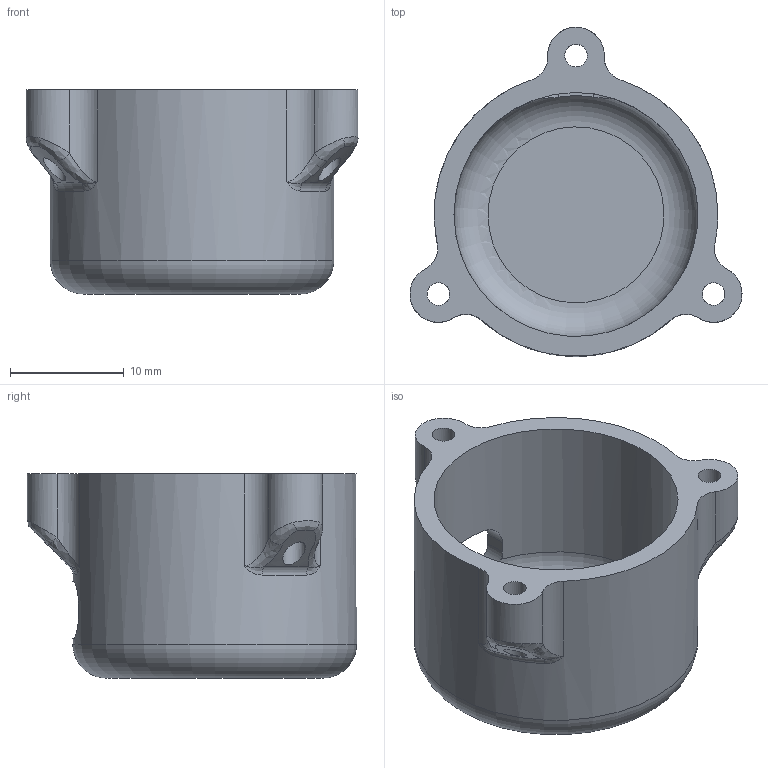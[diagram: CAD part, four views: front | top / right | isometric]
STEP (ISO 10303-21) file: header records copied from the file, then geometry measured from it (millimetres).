
FILE_DESCRIPTION(/* description */ ('Alibre Inc.'),/* implementation_level */ '2;1');
FILE_NAME(/* name */ 'export-B4A6B7F3-2F3C-40A6-8990-0A2E9B29EFCC',/* time_stamp */ '2020-08-19T17:22:30-05:00',/* author */ (''),/* organization */ (''),/* preprocessor_version */ 'ST-DEVELOPER v17',/* originating_system */ 'Alibre',/* authorisation */ '');
FILE_SCHEMA (('AUTOMOTIVE_DESIGN'));
Length unit declared in the file: millimetre
Bounding box: 29.25 x 29 x 18 mm (x, y, z)
Volume: 3167.1 mm3; surface area: 3560.9 mm2
Topology: 1 solids, 2 shells, 58 faces, 151 edges, 91 vertices
Faces by surface type: bspline 21, cylinder 20, plane 9, torus 5, cone 3
Full cylindrical faces by diameter (mm): 0.355 x1, 2 x3, 21.5 x1, 25 x1
Entity records: 4882 total; most frequent: CARTESIAN_POINT 3705, ORIENTED_EDGE 258, DIRECTION 184, EDGE_CURVE 129, AXIS2_PLACEMENT_3D 87, VERTEX_POINT 84, EDGE_LOOP 73, FACE_BOUND 73
